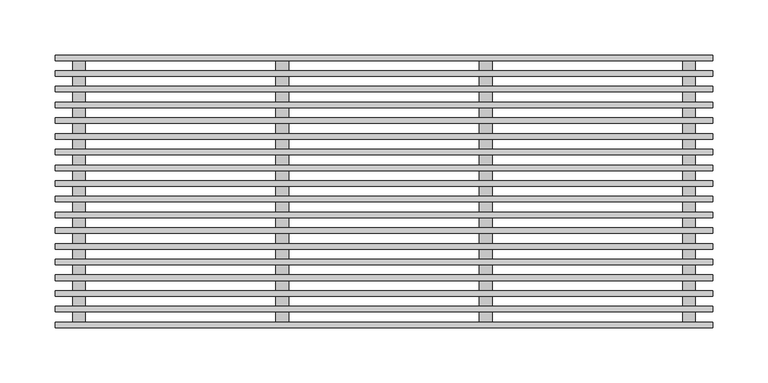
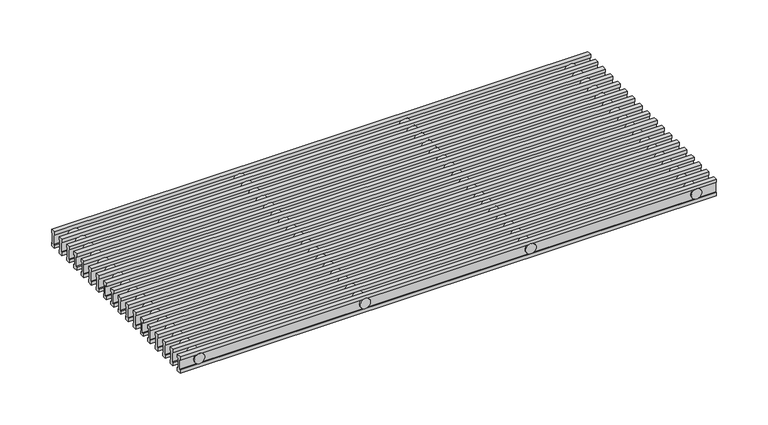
"""IFC4 building model written with IfcOpenShell, lengths in millimetres: proxy geometry, ♦ : РАП_Алюминиевая продольная/ Белый RAL 9016."""

from ifc_helpers import new_model, si_unit, point, frame, frame_2d, origin, place, context, project, spatial, polyline, circle_curve, trimmed, segment, composite_curve, outline, extrude, source, transform, mapped, element, save


def mechanical_equipment_5972c187(model_context):
    return source(origin(), model_context, "Body", "SweptSolid", [
        extrude(outline(polyline([(-104.5294118, 0.0), (-104.5294118, -3.86), (-105.7794118, -3.86), (-105.7794118, -15.44), (-104.5294118, -15.44), (-104.5294118, -19.3), (-109.5294118, -19.3), (-109.5294118, -15.44), (-108.2794118, -15.44), (-108.2794118, -3.86), (-109.5294118, -3.86), (-109.5294118, 0.0), (-104.5294118, 0.0)])), frame((1.2, 0.0, 0.0), z_axis=(1.0, 0.0, 0.0), x_axis=(0.0, 1.0, 0.0)), (0.0, 0.0, 1.0), 597.6),
        extrude(outline(polyline([(-90.2588235, 0.0), (-90.2588235, -3.86), (-91.5088235, -3.86), (-91.5088235, -15.44), (-90.2588235, -15.44), (-90.2588235, -19.3), (-95.2588235, -19.3), (-95.2588235, -15.44), (-94.0088235, -15.44), (-94.0088235, -3.86), (-95.2588235, -3.86), (-95.2588235, 0.0), (-90.2588235, 0.0)])), frame((1.2, 0.0, 0.0), z_axis=(1.0, 0.0, 0.0), x_axis=(0.0, 1.0, 0.0)), (0.0, 0.0, 1.0), 597.6),
        extrude(outline(polyline([(-75.9882353, 0.0), (-75.9882353, -3.86), (-77.2382353, -3.86), (-77.2382353, -15.44), (-75.9882353, -15.44), (-75.9882353, -19.3), (-80.9882353, -19.3), (-80.9882353, -15.44), (-79.7382353, -15.44), (-79.7382353, -3.86), (-80.9882353, -3.86), (-80.9882353, 0.0), (-75.9882353, 0.0)])), frame((1.2, 0.0, 0.0), z_axis=(1.0, 0.0, 0.0), x_axis=(0.0, 1.0, 0.0)), (0.0, 0.0, 1.0), 597.6),
        extrude(outline(polyline([(-61.7176471, 0.0), (-61.7176471, -3.86), (-62.9676471, -3.86), (-62.9676471, -15.44), (-61.7176471, -15.44), (-61.7176471, -19.3), (-66.7176471, -19.3), (-66.7176471, -15.44), (-65.4676471, -15.44), (-65.4676471, -3.86), (-66.7176471, -3.86), (-66.7176471, 0.0), (-61.7176471, 0.0)])), frame((1.2, 0.0, 0.0), z_axis=(1.0, 0.0, 0.0), x_axis=(0.0, 1.0, 0.0)), (0.0, 0.0, 1.0), 597.6),
        extrude(outline(polyline([(-47.4470588, 0.0), (-47.4470588, -3.86), (-48.6970588, -3.86), (-48.6970588, -15.44), (-47.4470588, -15.44), (-47.4470588, -19.3), (-52.4470588, -19.3), (-52.4470588, -15.44), (-51.1970588, -15.44), (-51.1970588, -3.86), (-52.4470588, -3.86), (-52.4470588, 0.0), (-47.4470588, 0.0)])), frame((1.2, 0.0, 0.0), z_axis=(1.0, 0.0, 0.0), x_axis=(0.0, 1.0, 0.0)), (0.0, 0.0, 1.0), 597.6),
        extrude(outline(polyline([(-33.1764706, 0.0), (-33.1764706, -3.86), (-34.4264706, -3.86), (-34.4264706, -15.44), (-33.1764706, -15.44), (-33.1764706, -19.3), (-38.1764706, -19.3), (-38.1764706, -15.44), (-36.9264706, -15.44), (-36.9264706, -3.86), (-38.1764706, -3.86), (-38.1764706, 0.0), (-33.1764706, 0.0)])), frame((1.2, 0.0, 0.0), z_axis=(1.0, 0.0, 0.0), x_axis=(0.0, 1.0, 0.0)), (0.0, 0.0, 1.0), 597.6),
        extrude(outline(polyline([(-18.9058824, 0.0), (-18.9058824, -3.86), (-20.1558824, -3.86), (-20.1558824, -15.44), (-18.9058824, -15.44), (-18.9058824, -19.3), (-23.9058824, -19.3), (-23.9058824, -15.44), (-22.6558824, -15.44), (-22.6558824, -3.86), (-23.9058824, -3.86), (-23.9058824, 0.0), (-18.9058824, 0.0)])), frame((1.2, 0.0, 0.0), z_axis=(1.0, 0.0, 0.0), x_axis=(0.0, 1.0, 0.0)), (0.0, 0.0, 1.0), 597.6),
        extrude(outline(polyline([(-4.6352941, 0.0), (-4.6352941, -3.86), (-5.8852941, -3.86), (-5.8852941, -15.44), (-4.6352941, -15.44), (-4.6352941, -19.3), (-9.6352941, -19.3), (-9.6352941, -15.44), (-8.3852941, -15.44), (-8.3852941, -3.86), (-9.6352941, -3.86), (-9.6352941, 0.0), (-4.6352941, 0.0)])), frame((1.2, 0.0, 0.0), z_axis=(1.0, 0.0, 0.0), x_axis=(0.0, 1.0, 0.0)), (0.0, 0.0, 1.0), 597.6),
        extrude(outline(polyline([(9.6352941, 0.0), (9.6352941, -3.86), (8.3852941, -3.86), (8.3852941, -15.44), (9.6352941, -15.44), (9.6352941, -19.3), (4.6352941, -19.3), (4.6352941, -15.44), (5.8852941, -15.44), (5.8852941, -3.86), (4.6352941, -3.86), (4.6352941, 0.0), (9.6352941, 0.0)])), frame((1.2, 0.0, 0.0), z_axis=(1.0, 0.0, 0.0), x_axis=(0.0, 1.0, 0.0)), (0.0, 0.0, 1.0), 597.6),
        extrude(outline(polyline([(23.9058824, 0.0), (23.9058824, -3.86), (22.6558824, -3.86), (22.6558824, -15.44), (23.9058824, -15.44), (23.9058824, -19.3), (18.9058824, -19.3), (18.9058824, -15.44), (20.1558824, -15.44), (20.1558824, -3.86), (18.9058824, -3.86), (18.9058824, 0.0), (23.9058824, 0.0)])), frame((1.2, 0.0, 0.0), z_axis=(1.0, 0.0, 0.0), x_axis=(0.0, 1.0, 0.0)), (0.0, 0.0, 1.0), 597.6),
        extrude(outline(composite_curve([segment(trimmed(circle_curve(frame_2d((-9.6, 392.3333333)), 5.8), [point((-9.6, 386.5333333))], [point((-9.6, 398.1333333))], False, "CARTESIAN"), True, "CONTINUOUS"), segment(trimmed(circle_curve(frame_2d((-9.6, 392.3333333)), 5.8), [point((-9.6, 398.1333333))], [point((-9.6, 386.5333333))], False, "CARTESIAN"), True, "CONTINUOUS")], self_intersect=False)), frame((0.0, -123.8, 0.0), z_axis=(0.0, 1.0, 0.0), x_axis=(0.0, 0.0, 1.0)), (0.0, 0.0, 1.0), 247.6),
        extrude(outline(composite_curve([segment(trimmed(circle_curve(frame_2d((-9.6, 207.6666667)), 5.8), [point((-9.6, 201.8666667))], [point((-9.6, 213.4666667))], False, "CARTESIAN"), True, "CONTINUOUS"), segment(trimmed(circle_curve(frame_2d((-9.6, 207.6666667)), 5.8), [point((-9.6, 213.4666667))], [point((-9.6, 201.8666667))], False, "CARTESIAN"), True, "CONTINUOUS")], self_intersect=False)), frame((0.0, -123.8, 0.0), z_axis=(0.0, 1.0, 0.0), x_axis=(0.0, 0.0, 1.0)), (0.0, 0.0, 1.0), 247.6),
        extrude(outline(composite_curve([segment(trimmed(circle_curve(frame_2d((-9.6, 577.0)), 5.8), [point((-9.6, 571.2))], [point((-9.6, 582.8))], False, "CARTESIAN"), True, "CONTINUOUS"), segment(trimmed(circle_curve(frame_2d((-9.6, 577.0)), 5.8), [point((-9.6, 582.8))], [point((-9.6, 571.2))], False, "CARTESIAN"), True, "CONTINUOUS")], self_intersect=False)), frame((0.0, -123.8, 0.0), z_axis=(0.0, 1.0, 0.0), x_axis=(0.0, 0.0, 1.0)), (0.0, 0.0, 1.0), 247.6),
        extrude(outline(composite_curve([segment(trimmed(circle_curve(frame_2d((-9.6, 23.0)), 5.8), [point((-9.6, 17.2))], [point((-9.6, 28.8))], False, "CARTESIAN"), True, "CONTINUOUS"), segment(trimmed(circle_curve(frame_2d((-9.6, 23.0)), 5.8), [point((-9.6, 28.8))], [point((-9.6, 17.2))], False, "CARTESIAN"), True, "CONTINUOUS")], self_intersect=False)), frame((0.0, -123.8, 0.0), z_axis=(0.0, 1.0, 0.0), x_axis=(0.0, 0.0, 1.0)), (0.0, 0.0, 1.0), 247.6),
        extrude(outline(polyline([(38.1764706, 0.0), (38.1764706, -3.86), (36.9264706, -3.86), (36.9264706, -15.44), (38.1764706, -15.44), (38.1764706, -19.3), (33.1764706, -19.3), (33.1764706, -15.44), (34.4264706, -15.44), (34.4264706, -3.86), (33.1764706, -3.86), (33.1764706, 0.0), (38.1764706, 0.0)])), frame((1.2, 0.0, 0.0), z_axis=(1.0, 0.0, 0.0), x_axis=(0.0, 1.0, 0.0)), (0.0, 0.0, 1.0), 597.6),
        extrude(outline(polyline([(52.4470588, 0.0), (52.4470588, -3.86), (51.1970588, -3.86), (51.1970588, -15.44), (52.4470588, -15.44), (52.4470588, -19.3), (47.4470588, -19.3), (47.4470588, -15.44), (48.6970588, -15.44), (48.6970588, -3.86), (47.4470588, -3.86), (47.4470588, 0.0), (52.4470588, 0.0)])), frame((1.2, 0.0, 0.0), z_axis=(1.0, 0.0, 0.0), x_axis=(0.0, 1.0, 0.0)), (0.0, 0.0, 1.0), 597.6),
        extrude(outline(polyline([(66.7176471, 0.0), (66.7176471, -3.86), (65.4676471, -3.86), (65.4676471, -15.44), (66.7176471, -15.44), (66.7176471, -19.3), (61.7176471, -19.3), (61.7176471, -15.44), (62.9676471, -15.44), (62.9676471, -3.86), (61.7176471, -3.86), (61.7176471, 0.0), (66.7176471, 0.0)])), frame((1.2, 0.0, 0.0), z_axis=(1.0, 0.0, 0.0), x_axis=(0.0, 1.0, 0.0)), (0.0, 0.0, 1.0), 597.6),
        extrude(outline(polyline([(80.9882353, 0.0), (80.9882353, -3.86), (79.7382353, -3.86), (79.7382353, -15.44), (80.9882353, -15.44), (80.9882353, -19.3), (75.9882353, -19.3), (75.9882353, -15.44), (77.2382353, -15.44), (77.2382353, -3.86), (75.9882353, -3.86), (75.9882353, 0.0), (80.9882353, 0.0)])), frame((1.2, 0.0, 0.0), z_axis=(1.0, 0.0, 0.0), x_axis=(0.0, 1.0, 0.0)), (0.0, 0.0, 1.0), 597.6),
        extrude(outline(polyline([(95.2588235, 0.0), (95.2588235, -3.86), (94.0088235, -3.86), (94.0088235, -15.44), (95.2588235, -15.44), (95.2588235, -19.3), (90.2588235, -19.3), (90.2588235, -15.44), (91.5088235, -15.44), (91.5088235, -3.86), (90.2588235, -3.86), (90.2588235, 0.0), (95.2588235, 0.0)])), frame((1.2, 0.0, 0.0), z_axis=(1.0, 0.0, 0.0), x_axis=(0.0, 1.0, 0.0)), (0.0, 0.0, 1.0), 597.6),
        extrude(outline(polyline([(109.5294118, 0.0), (109.5294118, -3.86), (108.2794118, -3.86), (108.2794118, -15.44), (109.5294118, -15.44), (109.5294118, -19.3), (104.5294118, -19.3), (104.5294118, -15.44), (105.7794118, -15.44), (105.7794118, -3.86), (104.5294118, -3.86), (104.5294118, 0.0), (109.5294118, 0.0)])), frame((1.2, 0.0, 0.0), z_axis=(1.0, 0.0, 0.0), x_axis=(0.0, 1.0, 0.0)), (0.0, 0.0, 1.0), 597.6),
        extrude(outline(polyline([(-118.8, 0.0), (-118.8, -3.86), (-120.05, -3.86), (-120.05, -15.44), (-118.8, -15.44), (-118.8, -19.3), (-123.8, -19.3), (-123.8, -15.44), (-122.55, -15.44), (-122.55, -3.86), (-123.8, -3.86), (-123.8, 0.0), (-118.8, 0.0)])), frame((1.2, 0.0, 0.0), z_axis=(1.0, 0.0, 0.0), x_axis=(0.0, 1.0, 0.0)), (0.0, 0.0, 1.0), 597.6),
        extrude(outline(polyline([(123.8, 0.0), (123.8, -3.86), (122.55, -3.86), (122.55, -15.44), (123.8, -15.44), (123.8, -19.3), (118.8, -19.3), (118.8, -15.44), (120.05, -15.44), (120.05, -3.86), (118.8, -3.86), (118.8, 0.0), (123.8, 0.0)])), frame((1.2, 0.0, 0.0), z_axis=(1.0, 0.0, 0.0), x_axis=(0.0, 1.0, 0.0)), (0.0, 0.0, 1.0), 597.6),
    ])


if __name__ == "__main__":
    model = new_model("IFC4")
    model_context = context("Model", 3, world=origin())
    ifc_project = project(units=[si_unit("LENGTHUNIT", "METRE", prefix="MILLI")], contexts=[model_context])
    site = spatial("IfcSite", under=ifc_project)
    building = spatial("IfcBuilding", under=site)
    placement = place(None, origin())
    mechanical_equipment_shape = mechanical_equipment_5972c187(model_context)
    element("IfcBuildingElementProxy", 1, Name="♦ : РАП_Алюминиевая продольная/ Белый RAL 9016", ObjectType="♦ : РАП_Алюминиевая продольная/ Белый RAL 9016", at=placement, inside=building, context=model_context, shape_type="MappedRepresentation", body=[
        mapped(mechanical_equipment_shape, transform((0.0, 0.0, 0.0), x_axis=(1.0, 0.0, 0.0), y_axis=(0.0, 1.0, 0.0), z_axis=(0.0, 0.0, 1.0))),
    ])
    save(model, "model.ifc")
